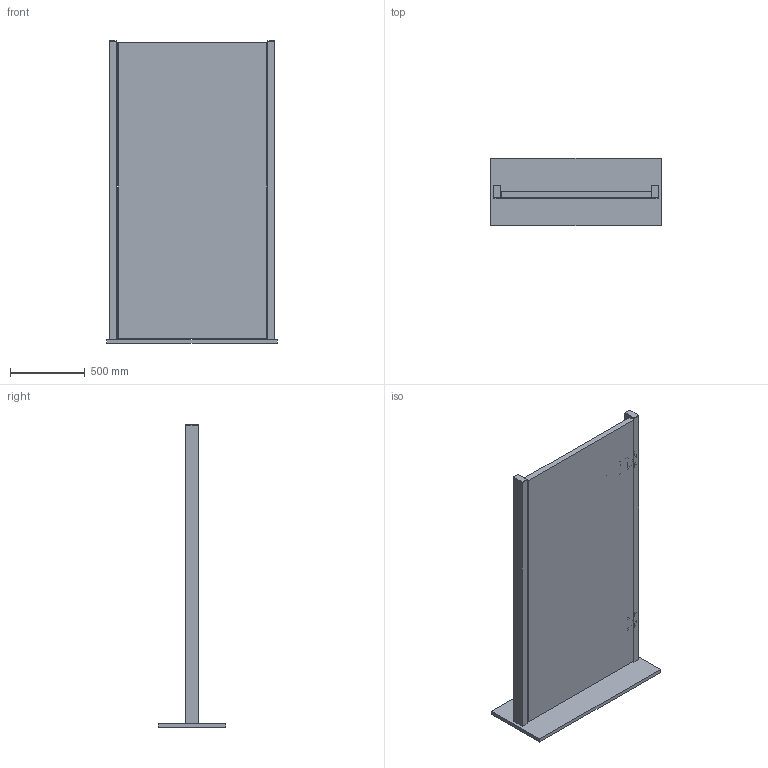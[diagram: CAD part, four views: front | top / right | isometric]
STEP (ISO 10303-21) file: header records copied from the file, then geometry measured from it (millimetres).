
FILE_DESCRIPTION((''),'2;1');
FILE_NAME('C:\Documents and Settings\pc02.OLMI.000\Desktop\500.516-00.STP','2016-08-29T15:33:18',('pc02'),(''),'Autodesk Inventor 2011','Autodesk Inventor 2011','');
FILE_SCHEMA(('AUTOMOTIVE_DESIGN { 1 0 10303 214 1 1 1 1 }'));
Length unit declared in the file: millimetre
Products named in the file (21): 500.516-00; 3D.STD.002556.00; 3D.STD.002557.00; 3D.STD.001126.00; 500.514-00; 3D.STD.002540.00; 3D.STD.002236.00; 3D.STD.002542.00; 3D.STD.002543.00; 3D.STD.002544.00; 3D.STD.002545.00; 3D.STD.001977.00; 3D.STD.002548.00; 3D.STD.002551.00; 3D.STD.002555.00; 3D.STD.002554.00; 3D.STD.002260.00; 500.515-00; 3D.STD.002553.00; 3D.STD.002546.00; 3D.STD.002421.00
Assembly tree (56 placements, depth 3):
  500.516-00
    3D.STD.002556.00
    3D.STD.002557.00
    3D.STD.001126.00  x2
    500.514-00
      3D.STD.002540.00
      3D.STD.002236.00  x2
      3D.STD.002542.00
      3D.STD.002543.00
      3D.STD.002544.00
      3D.STD.002545.00
      3D.STD.001977.00
      3D.STD.002548.00
      3D.STD.002551.00  x2
      3D.STD.002555.00  x2
      3D.STD.002554.00  x2
      3D.STD.002260.00  x8
    500.515-00
      3D.STD.002540.00
      3D.STD.002236.00  x2
      3D.STD.002542.00
      3D.STD.002543.00
      3D.STD.002544.00
      3D.STD.002553.00
      3D.STD.002546.00
      3D.STD.002421.00  x4
      3D.STD.001977.00
      3D.STD.002551.00  x2
      3D.STD.002554.00  x2
      3D.STD.002555.00  x2
      3D.STD.002260.00  x8
Bounding box: 1140 x 455 x 2030 mm (x, y, z)
Volume: 107160658.3 mm3; surface area: 6700151.4 mm2
Topology: 54 solids, 56 shells, 4328 faces, 11340 edges, 7268 vertices
Faces by surface type: plane 2778, cylinder 665, cone 425, bspline 365, torus 95
Full cylindrical faces by diameter (mm): 1 x8, 2.5 x16, 2.6 x4, 2.693 x16, 3 x16, 3.1 x4, 3.4 x8, 3.5 x1, 3.6 x16, 3.98 x6, 4 x22, 4.02 x6, 4.16 x4, 4.161 x22, 4.2 x8, 4.5 x4, 5 x8, 5.1 x1, 5.2 x16, 5.3 x16, 5.5 x19, 6.8 x8, 7 x2, 7.2 x4, 7.5 x4, 7.64 x4, 8 x8, 8.2 x4, 8.4 x4, 9.1 x2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
Entity records: 90958 total; most frequent: CARTESIAN_POINT 20628, ORIENTED_EDGE 14704, DIRECTION 13012, EDGE_CURVE 7352, VECTOR 5422, LINE 5422, VERTEX_POINT 4934, AXIS2_PLACEMENT_3D 3795
